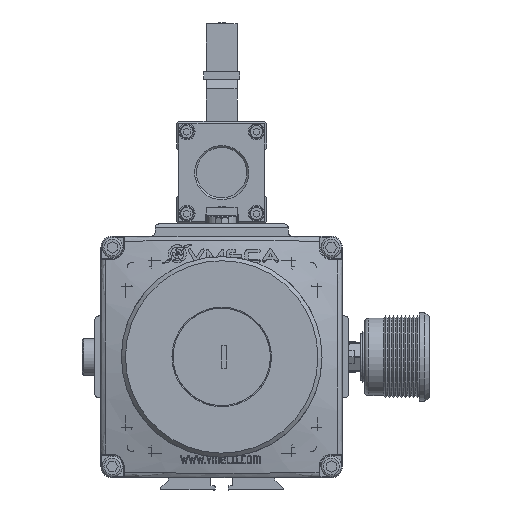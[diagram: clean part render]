
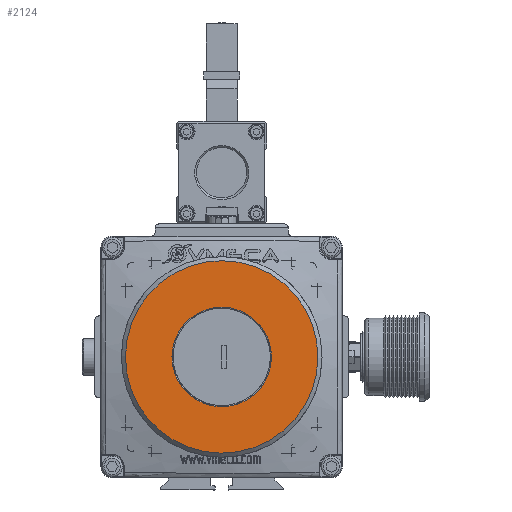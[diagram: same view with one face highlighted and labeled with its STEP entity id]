
A CAD part, left-side view. The second image highlights one B-rep face of the part: STEP entity #2124.
In plain terms, the highlighted planar face has unit normal (-1, 0, 0).
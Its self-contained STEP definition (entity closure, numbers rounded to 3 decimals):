
#2124 = ADVANCED_FACE( '', ( #5974, #5975 ), #5976, .F. );
#5974 = FACE_OUTER_BOUND( '', #12208, .T. );
#5975 = FACE_BOUND( '', #12209, .T. );
#5976 = PLANE( '', #12210 );
#12208 = EDGE_LOOP( '', ( #20487 ) );
#12209 = EDGE_LOOP( '', ( #20488 ) );
#12210 = AXIS2_PLACEMENT_3D( '', #20489, #20490, #20491 );
#20487 = ORIENTED_EDGE( '', *, *, #36710, .T. );
#20488 = ORIENTED_EDGE( '', *, *, #36711, .F. );
#20489 = CARTESIAN_POINT( '', ( -11., 0., 47. ) );
#20490 = DIRECTION( '', ( 1., 0., 0. ) );
#20491 = DIRECTION( '', ( 0., 1., 0. ) );
#36710 = EDGE_CURVE( '', #42958, #42958, #42959, .T. );
#36711 = EDGE_CURVE( '', #42960, #42960, #42961, .T. );
#42958 = VERTEX_POINT( '', #52135 );
#42959 = CIRCLE( '', #52136, 47. );
#42960 = VERTEX_POINT( '', #52137 );
#42961 = CIRCLE( '', #52138, 24.3 );
#52135 = CARTESIAN_POINT( '', ( -11., 0., 47. ) );
#52136 = AXIS2_PLACEMENT_3D( '', #68362, #68363, #68364 );
#52137 = CARTESIAN_POINT( '', ( -11., 0., 24.3 ) );
#52138 = AXIS2_PLACEMENT_3D( '', #68365, #68366, #68367 );
#68362 = CARTESIAN_POINT( '', ( -11., 0., 0. ) );
#68363 = DIRECTION( '', ( -1., 0., 0. ) );
#68364 = DIRECTION( '', ( 0., 0., 1. ) );
#68365 = CARTESIAN_POINT( '', ( -11., 0., 0. ) );
#68366 = DIRECTION( '', ( -1., 0., 0. ) );
#68367 = DIRECTION( '', ( 0., 0., 1. ) );
